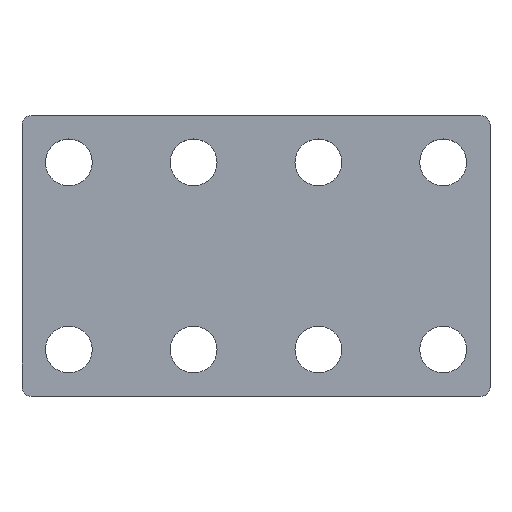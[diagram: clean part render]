
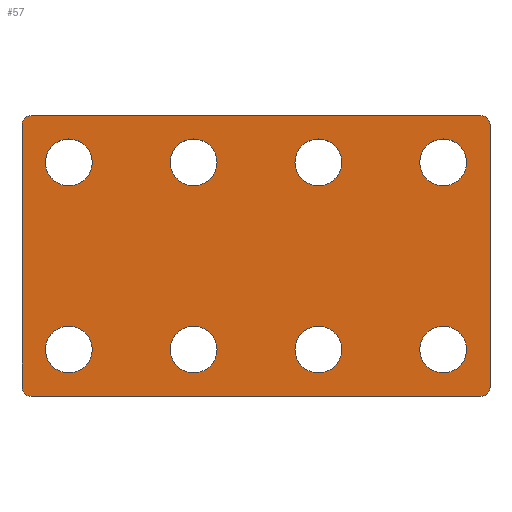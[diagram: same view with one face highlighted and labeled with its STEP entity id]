
A CAD part, top view. The second image highlights one B-rep face of the part: STEP entity #57.
In plain terms, the highlighted planar face has unit normal (0, 0, 1).
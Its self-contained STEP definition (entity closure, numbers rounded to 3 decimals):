
#21 = EDGE_CURVE('',#22,#24,#26,.T.);
#22 = VERTEX_POINT('',#23);
#23 = CARTESIAN_POINT('',(0.,2.,8.));
#24 = VERTEX_POINT('',#25);
#25 = CARTESIAN_POINT('',(0.,58.,8.));
#26 = LINE('',#27,#28);
#27 = CARTESIAN_POINT('',(0.,0.,8.));
#28 = VECTOR('',#29,1.);
#29 = DIRECTION('',(0.,1.,0.));
#57 = ADVANCED_FACE('',(#58,#119,#130,#141,#152,#163,#174,#185,#196),
  #207,.T.);
#58 = FACE_BOUND('',#59,.T.);
#59 = EDGE_LOOP('',(#60,#61,#70,#78,#87,#95,#104,#112));
#60 = ORIENTED_EDGE('',*,*,#21,.F.);
#61 = ORIENTED_EDGE('',*,*,#62,.T.);
#62 = EDGE_CURVE('',#22,#63,#65,.T.);
#63 = VERTEX_POINT('',#64);
#64 = CARTESIAN_POINT('',(2.,0.,8.));
#65 = CIRCLE('',#66,2.);
#66 = AXIS2_PLACEMENT_3D('',#67,#68,#69);
#67 = CARTESIAN_POINT('',(2.,2.,8.));
#68 = DIRECTION('',(-0.,0.,1.));
#69 = DIRECTION('',(0.,-1.,0.));
#70 = ORIENTED_EDGE('',*,*,#71,.T.);
#71 = EDGE_CURVE('',#63,#72,#74,.T.);
#72 = VERTEX_POINT('',#73);
#73 = CARTESIAN_POINT('',(98.,0.,8.));
#74 = LINE('',#75,#76);
#75 = CARTESIAN_POINT('',(0.,0.,8.));
#76 = VECTOR('',#77,1.);
#77 = DIRECTION('',(1.,0.,0.));
#78 = ORIENTED_EDGE('',*,*,#79,.T.);
#79 = EDGE_CURVE('',#72,#80,#82,.T.);
#80 = VERTEX_POINT('',#81);
#81 = CARTESIAN_POINT('',(100.,2.,8.));
#82 = CIRCLE('',#83,2.);
#83 = AXIS2_PLACEMENT_3D('',#84,#85,#86);
#84 = CARTESIAN_POINT('',(98.,2.,8.));
#85 = DIRECTION('',(-0.,0.,1.));
#86 = DIRECTION('',(0.,-1.,0.));
#87 = ORIENTED_EDGE('',*,*,#88,.T.);
#88 = EDGE_CURVE('',#80,#89,#91,.T.);
#89 = VERTEX_POINT('',#90);
#90 = CARTESIAN_POINT('',(100.,58.,8.));
#91 = LINE('',#92,#93);
#92 = CARTESIAN_POINT('',(100.,0.,8.));
#93 = VECTOR('',#94,1.);
#94 = DIRECTION('',(0.,1.,0.));
#95 = ORIENTED_EDGE('',*,*,#96,.F.);
#96 = EDGE_CURVE('',#97,#89,#99,.T.);
#97 = VERTEX_POINT('',#98);
#98 = CARTESIAN_POINT('',(98.,60.,8.));
#99 = CIRCLE('',#100,2.);
#100 = AXIS2_PLACEMENT_3D('',#101,#102,#103);
#101 = CARTESIAN_POINT('',(98.,58.,8.));
#102 = DIRECTION('',(-0.,-0.,-1.));
#103 = DIRECTION('',(0.,-1.,0.));
#104 = ORIENTED_EDGE('',*,*,#105,.F.);
#105 = EDGE_CURVE('',#106,#97,#108,.T.);
#106 = VERTEX_POINT('',#107);
#107 = CARTESIAN_POINT('',(2.,60.,8.));
#108 = LINE('',#109,#110);
#109 = CARTESIAN_POINT('',(0.,60.,8.));
#110 = VECTOR('',#111,1.);
#111 = DIRECTION('',(1.,0.,0.));
#112 = ORIENTED_EDGE('',*,*,#113,.F.);
#113 = EDGE_CURVE('',#24,#106,#114,.T.);
#114 = CIRCLE('',#115,2.);
#115 = AXIS2_PLACEMENT_3D('',#116,#117,#118);
#116 = CARTESIAN_POINT('',(2.,58.,8.));
#117 = DIRECTION('',(-0.,-0.,-1.));
#118 = DIRECTION('',(0.,-1.,0.));
#119 = FACE_BOUND('',#120,.T.);
#120 = EDGE_LOOP('',(#121));
#121 = ORIENTED_EDGE('',*,*,#122,.F.);
#122 = EDGE_CURVE('',#123,#123,#125,.T.);
#123 = VERTEX_POINT('',#124);
#124 = CARTESIAN_POINT('',(15.,10.,8.));
#125 = CIRCLE('',#126,5.);
#126 = AXIS2_PLACEMENT_3D('',#127,#128,#129);
#127 = CARTESIAN_POINT('',(10.,10.,8.));
#128 = DIRECTION('',(0.,0.,1.));
#129 = DIRECTION('',(1.,0.,0.));
#130 = FACE_BOUND('',#131,.T.);
#131 = EDGE_LOOP('',(#132));
#132 = ORIENTED_EDGE('',*,*,#133,.F.);
#133 = EDGE_CURVE('',#134,#134,#136,.T.);
#134 = VERTEX_POINT('',#135);
#135 = CARTESIAN_POINT('',(41.667,10.,8.));
#136 = CIRCLE('',#137,5.);
#137 = AXIS2_PLACEMENT_3D('',#138,#139,#140);
#138 = CARTESIAN_POINT('',(36.667,10.,8.));
#139 = DIRECTION('',(0.,0.,1.));
#140 = DIRECTION('',(1.,0.,0.));
#141 = FACE_BOUND('',#142,.T.);
#142 = EDGE_LOOP('',(#143));
#143 = ORIENTED_EDGE('',*,*,#144,.F.);
#144 = EDGE_CURVE('',#145,#145,#147,.T.);
#145 = VERTEX_POINT('',#146);
#146 = CARTESIAN_POINT('',(68.333,10.,8.));
#147 = CIRCLE('',#148,5.);
#148 = AXIS2_PLACEMENT_3D('',#149,#150,#151);
#149 = CARTESIAN_POINT('',(63.333,10.,8.));
#150 = DIRECTION('',(0.,0.,1.));
#151 = DIRECTION('',(1.,0.,0.));
#152 = FACE_BOUND('',#153,.T.);
#153 = EDGE_LOOP('',(#154));
#154 = ORIENTED_EDGE('',*,*,#155,.F.);
#155 = EDGE_CURVE('',#156,#156,#158,.T.);
#156 = VERTEX_POINT('',#157);
#157 = CARTESIAN_POINT('',(95.,10.,8.));
#158 = CIRCLE('',#159,5.);
#159 = AXIS2_PLACEMENT_3D('',#160,#161,#162);
#160 = CARTESIAN_POINT('',(90.,10.,8.));
#161 = DIRECTION('',(0.,0.,1.));
#162 = DIRECTION('',(1.,0.,0.));
#163 = FACE_BOUND('',#164,.T.);
#164 = EDGE_LOOP('',(#165));
#165 = ORIENTED_EDGE('',*,*,#166,.F.);
#166 = EDGE_CURVE('',#167,#167,#169,.T.);
#167 = VERTEX_POINT('',#168);
#168 = CARTESIAN_POINT('',(15.,50.,8.));
#169 = CIRCLE('',#170,5.);
#170 = AXIS2_PLACEMENT_3D('',#171,#172,#173);
#171 = CARTESIAN_POINT('',(10.,50.,8.));
#172 = DIRECTION('',(0.,0.,1.));
#173 = DIRECTION('',(1.,0.,0.));
#174 = FACE_BOUND('',#175,.T.);
#175 = EDGE_LOOP('',(#176));
#176 = ORIENTED_EDGE('',*,*,#177,.F.);
#177 = EDGE_CURVE('',#178,#178,#180,.T.);
#178 = VERTEX_POINT('',#179);
#179 = CARTESIAN_POINT('',(41.667,50.,8.));
#180 = CIRCLE('',#181,5.);
#181 = AXIS2_PLACEMENT_3D('',#182,#183,#184);
#182 = CARTESIAN_POINT('',(36.667,50.,8.));
#183 = DIRECTION('',(0.,0.,1.));
#184 = DIRECTION('',(1.,0.,0.));
#185 = FACE_BOUND('',#186,.T.);
#186 = EDGE_LOOP('',(#187));
#187 = ORIENTED_EDGE('',*,*,#188,.F.);
#188 = EDGE_CURVE('',#189,#189,#191,.T.);
#189 = VERTEX_POINT('',#190);
#190 = CARTESIAN_POINT('',(68.333,50.,8.));
#191 = CIRCLE('',#192,5.);
#192 = AXIS2_PLACEMENT_3D('',#193,#194,#195);
#193 = CARTESIAN_POINT('',(63.333,50.,8.));
#194 = DIRECTION('',(0.,0.,1.));
#195 = DIRECTION('',(1.,0.,0.));
#196 = FACE_BOUND('',#197,.T.);
#197 = EDGE_LOOP('',(#198));
#198 = ORIENTED_EDGE('',*,*,#199,.F.);
#199 = EDGE_CURVE('',#200,#200,#202,.T.);
#200 = VERTEX_POINT('',#201);
#201 = CARTESIAN_POINT('',(95.,50.,8.));
#202 = CIRCLE('',#203,5.);
#203 = AXIS2_PLACEMENT_3D('',#204,#205,#206);
#204 = CARTESIAN_POINT('',(90.,50.,8.));
#205 = DIRECTION('',(0.,0.,1.));
#206 = DIRECTION('',(1.,0.,0.));
#207 = PLANE('',#208);
#208 = AXIS2_PLACEMENT_3D('',#209,#210,#211);
#209 = CARTESIAN_POINT('',(0.,0.,8.));
#210 = DIRECTION('',(0.,0.,1.));
#211 = DIRECTION('',(1.,0.,0.));
